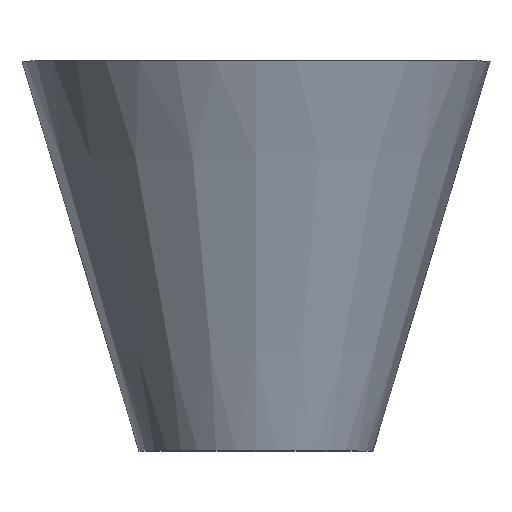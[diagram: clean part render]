
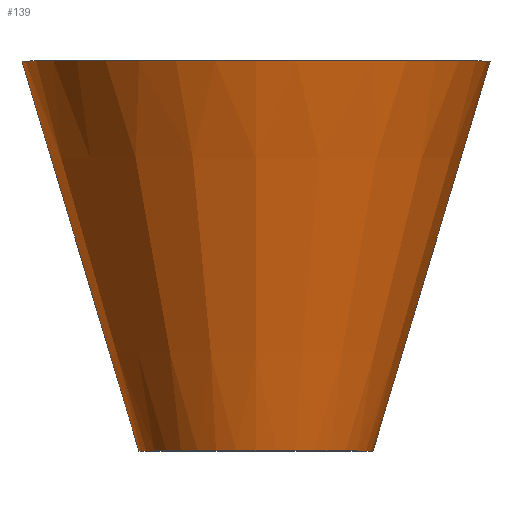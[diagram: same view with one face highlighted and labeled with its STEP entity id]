
A CAD part, top view. The second image highlights one B-rep face of the part: STEP entity #139.
In plain terms, the highlighted conical face has half-angle 16.699 degrees and reference radius 45 mm.
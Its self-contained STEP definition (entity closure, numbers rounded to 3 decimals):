
#139=ADVANCED_FACE('',(#271,#273),#275,.T.);
#271=FACE_OUTER_BOUND('',#272,.T.);
#272=EDGE_LOOP('',(#328));
#273=FACE_OUTER_BOUND('',#274,.T.);
#274=EDGE_LOOP('',(#329));
#275=CONICAL_SURFACE('',#276,45.,0.291);
#276=AXIS2_PLACEMENT_3D('',#277,#278,#279);
#277=CARTESIAN_POINT('',(0.,50.,0.));
#278=DIRECTION('',(0.,1.,0.));
#279=DIRECTION('',(-1.,0.,0.));
#328=ORIENTED_EDGE('',*,*,#334,.T.);
#329=ORIENTED_EDGE('',*,*,#350,.F.);
#334=EDGE_CURVE('',#352,#352,#353,.T.);
#350=EDGE_CURVE('',#384,#384,#385,.T.);
#352=VERTEX_POINT('',#388);
#353=CIRCLE('',#389,30.);
#384=VERTEX_POINT('',#468);
#385=CIRCLE('',#469,60.);
#388=CARTESIAN_POINT('',(-30.,0.,0.));
#389=AXIS2_PLACEMENT_3D('',#390,#391,#392);
#390=CARTESIAN_POINT('',(0.,0.,0.));
#391=DIRECTION('',(0.,1.,0.));
#392=DIRECTION('',(-1.,0.,0.));
#468=CARTESIAN_POINT('',(-60.,100.,0.));
#469=AXIS2_PLACEMENT_3D('',#470,#471,#472);
#470=CARTESIAN_POINT('',(0.,100.,0.));
#471=DIRECTION('',(0.,1.,0.));
#472=DIRECTION('',(-1.,0.,0.));
